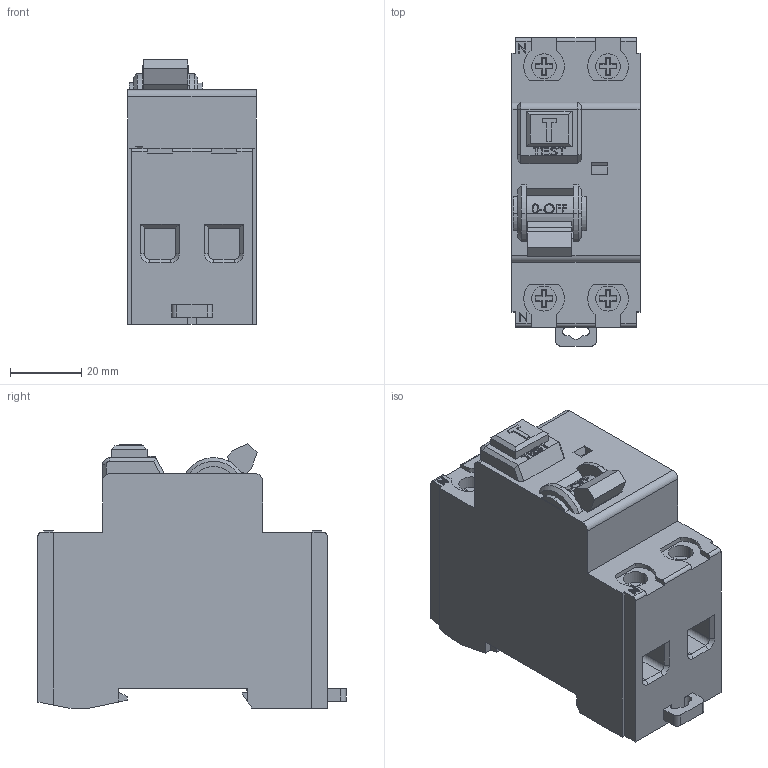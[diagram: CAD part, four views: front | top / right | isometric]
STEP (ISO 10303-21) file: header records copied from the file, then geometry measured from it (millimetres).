
FILE_DESCRIPTION (( 'STEP AP203' ), '1' );
FILE_NAME ('DRB100-230.STEP', '2018-05-11T12:45:41', ( '' ), ( '' ), 'SwSTEP 2.0', 'SolidWorks 2012', '' );
FILE_SCHEMA (( 'CONFIG_CONTROL_DESIGN' ));
Length unit declared in the file: millimetre
Products named in the file (1): DRB100-230
Bounding box: 36 x 86.6 x 74.45 mm (x, y, z)
Volume: 159608.2 mm3; surface area: 24121.2 mm2
Topology: 2 solids, 2 shells, 413 faces, 1111 edges, 729 vertices
Faces by surface type: plane 305, cylinder 63, bspline 32, cone 13
Entity records: 16540 total; most frequent: CARTESIAN_POINT 6253, ORIENTED_EDGE 2222, DIRECTION 1925, EDGE_CURVE 1111, LINE 871, VECTOR 871, VERTEX_POINT 729, AXIS2_PLACEMENT_3D 527
